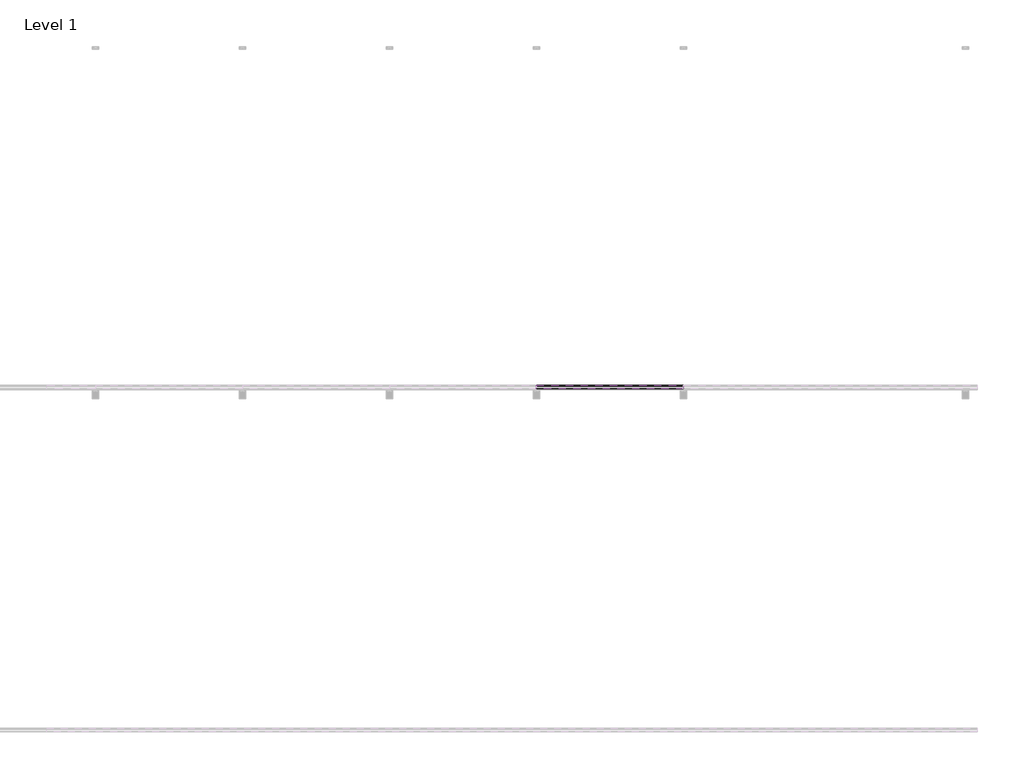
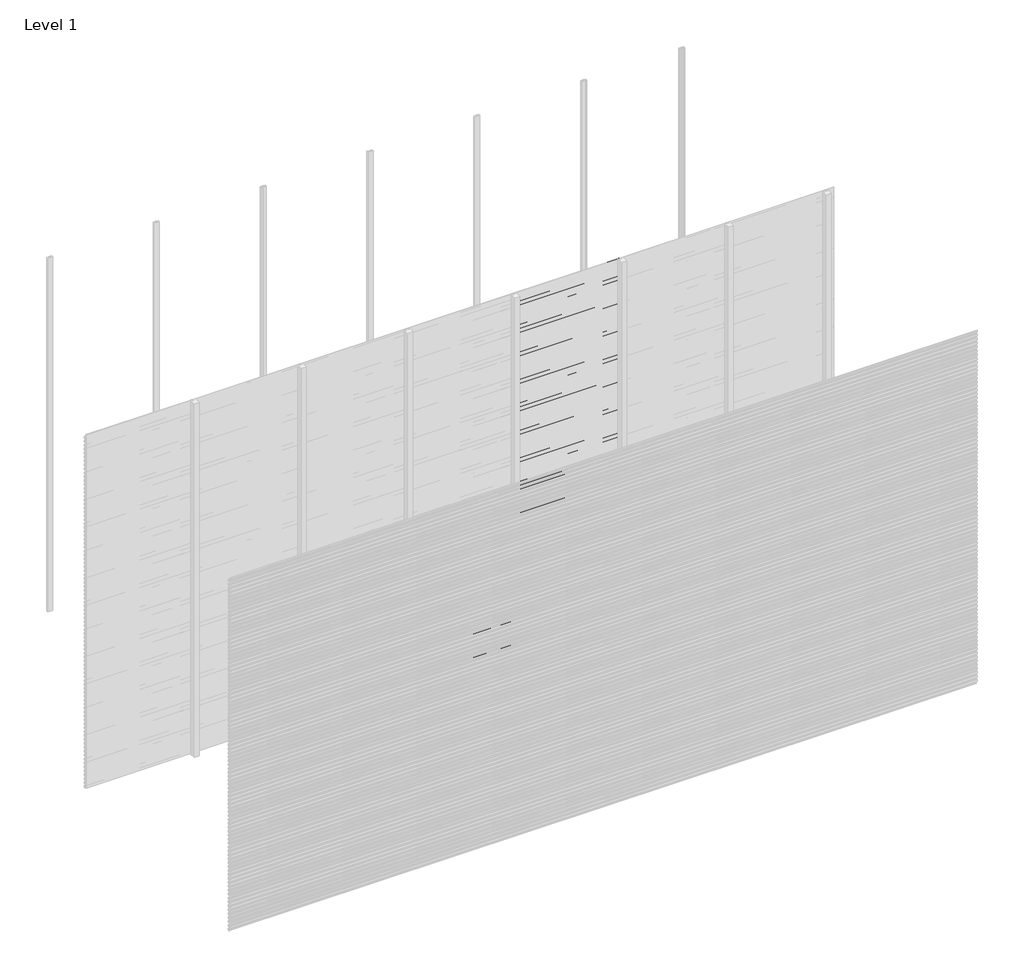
# One storey, part 47 of 96: 76 proxies.
"""IFC4 building model written with IfcOpenShell, lengths in millimetres."""

from ifc_helpers import new_model, si_unit, frame, origin, place, context, project, spatial, polyline, outline, extrude, element, save

model = new_model("IFC4")

# Units and contexts
model_context = context("Model", 3, world=origin())
ifc_project = project(units=[si_unit("LENGTHUNIT", "METRE", prefix="MILLI")], contexts=[model_context])

# Site, building, storey
site = spatial("IfcSite", under=ifc_project)
building = spatial("IfcBuilding", under=site)
storey = spatial("IfcBuildingStorey", under=building, Name="Level 1", Elevation=0.0)

# Proxies
placement = place(None, origin())
element("IfcBuildingElementProxy", 1, Name="Wall Sweeps", at=placement, inside=storey, context=model_context, shape_type="SweptSolid", body=[
    extrude(outline(polyline([(-29977.6, 407.6655033), (-29977.6, 393.3779188), (-29982.4114965, 390.6), (-29982.4114965, 391.8701706), (-29978.85, 393.9264016), (-29978.85, 406.9437382), (-29998.0, 418.0000799), (-29998.0, 432.9), (-29996.75, 432.9), (-29996.75, 418.7217609), (-29977.6, 407.6655033)])), frame((2571.4285714, 0.0, 0.0), z_axis=(1.0, 0.0, 0.0), x_axis=(0.0, 1.0, 0.0)), (0.0, 0.0, 1.0), 857.1428571),
])
element("IfcBuildingElementProxy", 2, Name="Wall Sweeps", at=placement, inside=storey, context=model_context, shape_type="SweptSolid", body=[
    extrude(outline(polyline([(-29977.6, 374.3655033), (-29977.6, 360.0779188), (-29982.4114965, 357.3), (-29982.4114965, 358.5701706), (-29978.85, 360.6264016), (-29978.85, 373.6437382), (-29998.0, 384.7000799), (-29998.0, 399.6), (-29996.75, 399.6), (-29996.75, 385.4217609), (-29977.6, 374.3655033)])), frame((2571.4285714, 0.0, 0.0), z_axis=(1.0, 0.0, 0.0), x_axis=(0.0, 1.0, 0.0)), (0.0, 0.0, 1.0), 857.1428571),
])
element("IfcBuildingElementProxy", 3, Name="Wall Sweeps", at=placement, inside=storey, context=model_context, shape_type="SweptSolid", body=[
    extrude(outline(polyline([(-29977.6, 341.0655033), (-29977.6, 326.7779188), (-29982.4114965, 324.0), (-29982.4114965, 325.2701706), (-29978.85, 327.3264016), (-29978.85, 340.3437382), (-29998.0, 351.4000799), (-29998.0, 366.3), (-29996.75, 366.3), (-29996.75, 352.1217609), (-29977.6, 341.0655033)])), frame((2571.4285714, 0.0, 0.0), z_axis=(1.0, 0.0, 0.0), x_axis=(0.0, 1.0, 0.0)), (0.0, 0.0, 1.0), 857.1428571),
])
element("IfcBuildingElementProxy", 4, Name="Wall Sweeps", at=placement, inside=storey, context=model_context, shape_type="SweptSolid", body=[
    extrude(outline(polyline([(-29977.6, 307.7655033), (-29977.6, 293.4779188), (-29982.4114965, 290.7), (-29982.4114965, 291.9701706), (-29978.85, 294.0264016), (-29978.85, 307.0437382), (-29998.0, 318.1000799), (-29998.0, 333.0), (-29996.75, 333.0), (-29996.75, 318.8217609), (-29977.6, 307.7655033)])), frame((2571.4285714, 0.0, 0.0), z_axis=(1.0, 0.0, 0.0), x_axis=(0.0, 1.0, 0.0)), (0.0, 0.0, 1.0), 857.1428571),
])
element("IfcBuildingElementProxy", 5, Name="Wall Sweeps", at=placement, inside=storey, context=model_context, shape_type="SweptSolid", body=[
    extrude(outline(polyline([(-29977.6, 274.4655033), (-29977.6, 260.1779188), (-29982.4114965, 257.4), (-29982.4114965, 258.6701706), (-29978.85, 260.7264016), (-29978.85, 273.7437382), (-29998.0, 284.8000799), (-29998.0, 299.7), (-29996.75, 299.7), (-29996.75, 285.5217609), (-29977.6, 274.4655033)])), frame((2571.4285714, 0.0, 0.0), z_axis=(1.0, 0.0, 0.0), x_axis=(0.0, 1.0, 0.0)), (0.0, 0.0, 1.0), 857.1428571),
])
element("IfcBuildingElementProxy", 6, Name="Wall Sweeps", at=placement, inside=storey, context=model_context, shape_type="SweptSolid", body=[
    extrude(outline(polyline([(-29977.6, 241.1655033), (-29977.6, 226.8779188), (-29982.4114965, 224.1), (-29982.4114965, 225.3701706), (-29978.85, 227.4264016), (-29978.85, 240.4437382), (-29998.0, 251.5000799), (-29998.0, 266.4), (-29996.75, 266.4), (-29996.75, 252.2217609), (-29977.6, 241.1655033)])), frame((2571.4285714, 0.0, 0.0), z_axis=(1.0, 0.0, 0.0), x_axis=(0.0, 1.0, 0.0)), (0.0, 0.0, 1.0), 857.1428571),
])
element("IfcBuildingElementProxy", 7, Name="Wall Sweeps", at=placement, inside=storey, context=model_context, shape_type="SweptSolid", body=[
    extrude(outline(polyline([(-29977.6, 207.8655033), (-29977.6, 193.5779188), (-29982.4114965, 190.8), (-29982.4114965, 192.0701706), (-29978.85, 194.1264016), (-29978.85, 207.1437382), (-29998.0, 218.2000799), (-29998.0, 233.1), (-29996.75, 233.1), (-29996.75, 218.9217609), (-29977.6, 207.8655033)])), frame((2571.4285714, 0.0, 0.0), z_axis=(1.0, 0.0, 0.0), x_axis=(0.0, 1.0, 0.0)), (0.0, 0.0, 1.0), 857.1428571),
])
element("IfcBuildingElementProxy", 8, Name="Wall Sweeps", at=placement, inside=storey, context=model_context, shape_type="SweptSolid", body=[
    extrude(outline(polyline([(-29977.6, 174.5655033), (-29977.6, 160.2779188), (-29982.4114965, 157.5), (-29982.4114965, 158.7701706), (-29978.85, 160.8264016), (-29978.85, 173.8437382), (-29998.0, 184.9000799), (-29998.0, 199.8), (-29996.75, 199.8), (-29996.75, 185.6217609), (-29977.6, 174.5655033)])), frame((2571.4285714, 0.0, 0.0), z_axis=(1.0, 0.0, 0.0), x_axis=(0.0, 1.0, 0.0)), (0.0, 0.0, 1.0), 857.1428571),
])
element("IfcBuildingElementProxy", 9, Name="Wall Sweeps", at=placement, inside=storey, context=model_context, shape_type="SweptSolid", body=[
    extrude(outline(polyline([(-29977.6, 141.2655033), (-29977.6, 126.9779188), (-29982.4114965, 124.2), (-29982.4114965, 125.4701706), (-29978.85, 127.5264016), (-29978.85, 140.5437382), (-29998.0, 151.6000799), (-29998.0, 166.5), (-29996.75, 166.5), (-29996.75, 152.3217609), (-29977.6, 141.2655033)])), frame((2571.4285714, 0.0, 0.0), z_axis=(1.0, 0.0, 0.0), x_axis=(0.0, 1.0, 0.0)), (0.0, 0.0, 1.0), 857.1428571),
])
element("IfcBuildingElementProxy", 10, Name="Wall Sweeps", at=placement, inside=storey, context=model_context, shape_type="SweptSolid", body=[
    extrude(outline(polyline([(-29977.6, 107.9655033), (-29977.6, 93.6779188), (-29982.4114965, 90.9), (-29982.4114965, 92.1701706), (-29978.85, 94.2264016), (-29978.85, 107.2437382), (-29998.0, 118.3000799), (-29998.0, 133.2), (-29996.75, 133.2), (-29996.75, 119.0217609), (-29977.6, 107.9655033)])), frame((2571.4285714, 0.0, 0.0), z_axis=(1.0, 0.0, 0.0), x_axis=(0.0, 1.0, 0.0)), (0.0, 0.0, 1.0), 857.1428571),
])
element("IfcBuildingElementProxy", 11, Name="Wall Sweeps", at=placement, inside=storey, context=model_context, shape_type="SweptSolid", body=[
    extrude(outline(polyline([(-29977.6, 74.6655033), (-29977.6, 60.3779188), (-29982.4114965, 57.6), (-29982.4114965, 58.8701706), (-29978.85, 60.9264016), (-29978.85, 73.9437382), (-29998.0, 85.0000799), (-29998.0, 99.9), (-29996.75, 99.9), (-29996.75, 85.7217609), (-29977.6, 74.6655033)])), frame((2571.4285714, 0.0, 0.0), z_axis=(1.0, 0.0, 0.0), x_axis=(0.0, 1.0, 0.0)), (0.0, 0.0, 1.0), 857.1428571),
])
element("IfcBuildingElementProxy", 12, Name="Wall Sweeps", at=placement, inside=storey, context=model_context, shape_type="SweptSolid", body=[
    extrude(outline(polyline([(-29977.6, 41.3655033), (-29977.6, 27.0779188), (-29982.4114965, 24.3), (-29982.4114965, 25.5701706), (-29978.85, 27.6264016), (-29978.85, 40.6437382), (-29998.0, 51.7000799), (-29998.0, 66.6), (-29996.75, 66.6), (-29996.75, 52.4217609), (-29977.6, 41.3655033)])), frame((2571.4285714, 0.0, 0.0), z_axis=(1.0, 0.0, 0.0), x_axis=(0.0, 1.0, 0.0)), (0.0, 0.0, 1.0), 857.1428571),
])
element("IfcBuildingElementProxy", 13, Name="Wall Sweeps", at=placement, inside=storey, context=model_context, shape_type="SweptSolid", body=[
    extrude(outline(polyline([(-29977.6, 8.0655033), (-29977.6, -6.2220812), (-29982.4114965, -9.0), (-29982.4114965, -7.7298294), (-29978.85, -5.6735984), (-29978.85, 7.3437382), (-29998.0, 18.4000799), (-29998.0, 33.3), (-29996.75, 33.3), (-29996.75, 19.1217609), (-29977.6, 8.0655033)])), frame((2571.4285714, 0.0, 0.0), z_axis=(1.0, 0.0, 0.0), x_axis=(0.0, 1.0, 0.0)), (0.0, 0.0, 1.0), 857.1428571),
])
element("IfcBuildingElementProxy", 14, Name="Wall Sweeps", at=placement, inside=storey, context=model_context, shape_type="SweptSolid", body=[
    extrude(outline(polyline([(-29977.6, 2971.7655033), (-29977.6, 2957.4779188), (-29982.4114965, 2954.7), (-29982.4114965, 2955.9701706), (-29978.85, 2958.0264016), (-29978.85, 2971.0437382), (-29998.0, 2982.1000799), (-29998.0, 2997.0), (-29996.75, 2997.0), (-29996.75, 2982.8217609), (-29977.6, 2971.7655033)])), frame((3428.5714286, 0.0, 0.0), z_axis=(1.0, 0.0, 0.0), x_axis=(0.0, 1.0, 0.0)), (0.0, 0.0, 1.0), 857.1428571),
])
element("IfcBuildingElementProxy", 15, Name="Wall Sweeps", at=placement, inside=storey, context=model_context, shape_type="SweptSolid", body=[
    extrude(outline(polyline([(-29977.6, 2938.4655033), (-29977.6, 2924.1779188), (-29982.4114965, 2921.4), (-29982.4114965, 2922.6701706), (-29978.85, 2924.7264016), (-29978.85, 2937.7437382), (-29998.0, 2948.8000799), (-29998.0, 2963.7), (-29996.75, 2963.7), (-29996.75, 2949.5217609), (-29977.6, 2938.4655033)])), frame((3428.5714286, 0.0, 0.0), z_axis=(1.0, 0.0, 0.0), x_axis=(0.0, 1.0, 0.0)), (0.0, 0.0, 1.0), 857.1428571),
])
element("IfcBuildingElementProxy", 16, Name="Wall Sweeps", at=placement, inside=storey, context=model_context, shape_type="SweptSolid", body=[
    extrude(outline(polyline([(-29977.6, 2905.1655033), (-29977.6, 2890.8779188), (-29982.4114965, 2888.1), (-29982.4114965, 2889.3701706), (-29978.85, 2891.4264016), (-29978.85, 2904.4437382), (-29998.0, 2915.5000799), (-29998.0, 2930.4), (-29996.75, 2930.4), (-29996.75, 2916.2217609), (-29977.6, 2905.1655033)])), frame((3428.5714286, 0.0, 0.0), z_axis=(1.0, 0.0, 0.0), x_axis=(0.0, 1.0, 0.0)), (0.0, 0.0, 1.0), 857.1428571),
])
element("IfcBuildingElementProxy", 17, Name="Wall Sweeps", at=placement, inside=storey, context=model_context, shape_type="SweptSolid", body=[
    extrude(outline(polyline([(-29977.6, 2871.8655033), (-29977.6, 2857.5779188), (-29982.4114965, 2854.8), (-29982.4114965, 2856.0701706), (-29978.85, 2858.1264016), (-29978.85, 2871.1437382), (-29998.0, 2882.2000799), (-29998.0, 2897.1), (-29996.75, 2897.1), (-29996.75, 2882.9217609), (-29977.6, 2871.8655033)])), frame((3428.5714286, 0.0, 0.0), z_axis=(1.0, 0.0, 0.0), x_axis=(0.0, 1.0, 0.0)), (0.0, 0.0, 1.0), 857.1428571),
])
element("IfcBuildingElementProxy", 18, Name="Wall Sweeps", at=placement, inside=storey, context=model_context, shape_type="SweptSolid", body=[
    extrude(outline(polyline([(-29977.6, 2838.5655033), (-29977.6, 2824.2779188), (-29982.4114965, 2821.5), (-29982.4114965, 2822.7701706), (-29978.85, 2824.8264016), (-29978.85, 2837.8437382), (-29998.0, 2848.9000799), (-29998.0, 2863.8), (-29996.75, 2863.8), (-29996.75, 2849.6217609), (-29977.6, 2838.5655033)])), frame((3428.5714286, 0.0, 0.0), z_axis=(1.0, 0.0, 0.0), x_axis=(0.0, 1.0, 0.0)), (0.0, 0.0, 1.0), 857.1428571),
])
element("IfcBuildingElementProxy", 19, Name="Wall Sweeps", at=placement, inside=storey, context=model_context, shape_type="SweptSolid", body=[
    extrude(outline(polyline([(-29977.6, 2805.2655033), (-29977.6, 2790.9779188), (-29982.4114965, 2788.2), (-29982.4114965, 2789.4701706), (-29978.85, 2791.5264016), (-29978.85, 2804.5437382), (-29998.0, 2815.6000799), (-29998.0, 2830.5), (-29996.75, 2830.5), (-29996.75, 2816.3217609), (-29977.6, 2805.2655033)])), frame((3428.5714286, 0.0, 0.0), z_axis=(1.0, 0.0, 0.0), x_axis=(0.0, 1.0, 0.0)), (0.0, 0.0, 1.0), 857.1428571),
])
element("IfcBuildingElementProxy", 20, Name="Wall Sweeps", at=placement, inside=storey, context=model_context, shape_type="SweptSolid", body=[
    extrude(outline(polyline([(-29977.6, 2771.9655033), (-29977.6, 2757.6779188), (-29982.4114965, 2754.9), (-29982.4114965, 2756.1701706), (-29978.85, 2758.2264016), (-29978.85, 2771.2437382), (-29998.0, 2782.3000799), (-29998.0, 2797.2), (-29996.75, 2797.2), (-29996.75, 2783.0217609), (-29977.6, 2771.9655033)])), frame((3428.5714286, 0.0, 0.0), z_axis=(1.0, 0.0, 0.0), x_axis=(0.0, 1.0, 0.0)), (0.0, 0.0, 1.0), 857.1428571),
])
element("IfcBuildingElementProxy", 21, Name="Wall Sweeps", at=placement, inside=storey, context=model_context, shape_type="SweptSolid", body=[
    extrude(outline(polyline([(-29977.6, 2738.6655033), (-29977.6, 2724.3779188), (-29982.4114965, 2721.6), (-29982.4114965, 2722.8701706), (-29978.85, 2724.9264016), (-29978.85, 2737.9437382), (-29998.0, 2749.0000799), (-29998.0, 2763.9), (-29996.75, 2763.9), (-29996.75, 2749.7217609), (-29977.6, 2738.6655033)])), frame((3428.5714286, 0.0, 0.0), z_axis=(1.0, 0.0, 0.0), x_axis=(0.0, 1.0, 0.0)), (0.0, 0.0, 1.0), 857.1428571),
])
element("IfcBuildingElementProxy", 22, Name="Wall Sweeps", at=placement, inside=storey, context=model_context, shape_type="SweptSolid", body=[
    extrude(outline(polyline([(-29977.6, 2705.3655033), (-29977.6, 2691.0779188), (-29982.4114965, 2688.3), (-29982.4114965, 2689.5701706), (-29978.85, 2691.6264016), (-29978.85, 2704.6437382), (-29998.0, 2715.7000799), (-29998.0, 2730.6), (-29996.75, 2730.6), (-29996.75, 2716.4217609), (-29977.6, 2705.3655033)])), frame((3428.5714286, 0.0, 0.0), z_axis=(1.0, 0.0, 0.0), x_axis=(0.0, 1.0, 0.0)), (0.0, 0.0, 1.0), 857.1428571),
])
element("IfcBuildingElementProxy", 23, Name="Wall Sweeps", at=placement, inside=storey, context=model_context, shape_type="SweptSolid", body=[
    extrude(outline(polyline([(-29977.6, 2672.0655033), (-29977.6, 2657.7779188), (-29982.4114965, 2655.0), (-29982.4114965, 2656.2701706), (-29978.85, 2658.3264016), (-29978.85, 2671.3437382), (-29998.0, 2682.4000799), (-29998.0, 2697.3), (-29996.75, 2697.3), (-29996.75, 2683.1217609), (-29977.6, 2672.0655033)])), frame((3428.5714286, 0.0, 0.0), z_axis=(1.0, 0.0, 0.0), x_axis=(0.0, 1.0, 0.0)), (0.0, 0.0, 1.0), 857.1428571),
])
element("IfcBuildingElementProxy", 24, Name="Wall Sweeps", at=placement, inside=storey, context=model_context, shape_type="SweptSolid", body=[
    extrude(outline(polyline([(-29977.6, 2638.7655033), (-29977.6, 2624.4779188), (-29982.4114965, 2621.7), (-29982.4114965, 2622.9701706), (-29978.85, 2625.0264016), (-29978.85, 2638.0437382), (-29998.0, 2649.1000799), (-29998.0, 2664.0), (-29996.75, 2664.0), (-29996.75, 2649.8217609), (-29977.6, 2638.7655033)])), frame((3428.5714286, 0.0, 0.0), z_axis=(1.0, 0.0, 0.0), x_axis=(0.0, 1.0, 0.0)), (0.0, 0.0, 1.0), 857.1428571),
])
element("IfcBuildingElementProxy", 25, Name="Wall Sweeps", at=placement, inside=storey, context=model_context, shape_type="SweptSolid", body=[
    extrude(outline(polyline([(-29977.6, 2605.4655033), (-29977.6, 2591.1779188), (-29982.4114965, 2588.4), (-29982.4114965, 2589.6701706), (-29978.85, 2591.7264016), (-29978.85, 2604.7437382), (-29998.0, 2615.8000799), (-29998.0, 2630.7), (-29996.75, 2630.7), (-29996.75, 2616.5217609), (-29977.6, 2605.4655033)])), frame((3428.5714286, 0.0, 0.0), z_axis=(1.0, 0.0, 0.0), x_axis=(0.0, 1.0, 0.0)), (0.0, 0.0, 1.0), 857.1428571),
])
element("IfcBuildingElementProxy", 26, Name="Wall Sweeps", at=placement, inside=storey, context=model_context, shape_type="SweptSolid", body=[
    extrude(outline(polyline([(-29977.6, 2572.1655033), (-29977.6, 2557.8779188), (-29982.4114965, 2555.1), (-29982.4114965, 2556.3701706), (-29978.85, 2558.4264016), (-29978.85, 2571.4437382), (-29998.0, 2582.5000799), (-29998.0, 2597.4), (-29996.75, 2597.4), (-29996.75, 2583.2217609), (-29977.6, 2572.1655033)])), frame((3428.5714286, 0.0, 0.0), z_axis=(1.0, 0.0, 0.0), x_axis=(0.0, 1.0, 0.0)), (0.0, 0.0, 1.0), 857.1428571),
])
element("IfcBuildingElementProxy", 27, Name="Wall Sweeps", at=placement, inside=storey, context=model_context, shape_type="SweptSolid", body=[
    extrude(outline(polyline([(-29977.6, 2538.8655033), (-29977.6, 2524.5779188), (-29982.4114965, 2521.8), (-29982.4114965, 2523.0701706), (-29978.85, 2525.1264016), (-29978.85, 2538.1437382), (-29998.0, 2549.2000799), (-29998.0, 2564.1), (-29996.75, 2564.1), (-29996.75, 2549.9217609), (-29977.6, 2538.8655033)])), frame((3428.5714286, 0.0, 0.0), z_axis=(1.0, 0.0, 0.0), x_axis=(0.0, 1.0, 0.0)), (0.0, 0.0, 1.0), 857.1428571),
])
element("IfcBuildingElementProxy", 28, Name="Wall Sweeps", at=placement, inside=storey, context=model_context, shape_type="SweptSolid", body=[
    extrude(outline(polyline([(-29977.6, 2505.5655033), (-29977.6, 2491.2779188), (-29982.4114965, 2488.5), (-29982.4114965, 2489.7701706), (-29978.85, 2491.8264016), (-29978.85, 2504.8437382), (-29998.0, 2515.9000799), (-29998.0, 2530.8), (-29996.75, 2530.8), (-29996.75, 2516.6217609), (-29977.6, 2505.5655033)])), frame((3428.5714286, 0.0, 0.0), z_axis=(1.0, 0.0, 0.0), x_axis=(0.0, 1.0, 0.0)), (0.0, 0.0, 1.0), 857.1428571),
])
element("IfcBuildingElementProxy", 29, Name="Wall Sweeps", at=placement, inside=storey, context=model_context, shape_type="SweptSolid", body=[
    extrude(outline(polyline([(-29977.6, 2472.2655033), (-29977.6, 2457.9779188), (-29982.4114965, 2455.2), (-29982.4114965, 2456.4701706), (-29978.85, 2458.5264016), (-29978.85, 2471.5437382), (-29998.0, 2482.6000799), (-29998.0, 2497.5), (-29996.75, 2497.5), (-29996.75, 2483.3217609), (-29977.6, 2472.2655033)])), frame((3428.5714286, 0.0, 0.0), z_axis=(1.0, 0.0, 0.0), x_axis=(0.0, 1.0, 0.0)), (0.0, 0.0, 1.0), 857.1428571),
])
element("IfcBuildingElementProxy", 30, Name="Wall Sweeps", at=placement, inside=storey, context=model_context, shape_type="SweptSolid", body=[
    extrude(outline(polyline([(-29977.6, 2438.9655033), (-29977.6, 2424.6779188), (-29982.4114965, 2421.9), (-29982.4114965, 2423.1701706), (-29978.85, 2425.2264016), (-29978.85, 2438.2437382), (-29998.0, 2449.3000799), (-29998.0, 2464.2), (-29996.75, 2464.2), (-29996.75, 2450.0217609), (-29977.6, 2438.9655033)])), frame((3428.5714286, 0.0, 0.0), z_axis=(1.0, 0.0, 0.0), x_axis=(0.0, 1.0, 0.0)), (0.0, 0.0, 1.0), 857.1428571),
])
element("IfcBuildingElementProxy", 31, Name="Wall Sweeps", at=placement, inside=storey, context=model_context, shape_type="SweptSolid", body=[
    extrude(outline(polyline([(-29977.6, 2405.6655033), (-29977.6, 2391.3779188), (-29982.4114965, 2388.6), (-29982.4114965, 2389.8701706), (-29978.85, 2391.9264016), (-29978.85, 2404.9437382), (-29998.0, 2416.0000799), (-29998.0, 2430.9), (-29996.75, 2430.9), (-29996.75, 2416.7217609), (-29977.6, 2405.6655033)])), frame((3428.5714286, 0.0, 0.0), z_axis=(1.0, 0.0, 0.0), x_axis=(0.0, 1.0, 0.0)), (0.0, 0.0, 1.0), 857.1428571),
])
element("IfcBuildingElementProxy", 32, Name="Wall Sweeps", at=placement, inside=storey, context=model_context, shape_type="SweptSolid", body=[
    extrude(outline(polyline([(-29977.6, 2372.3655033), (-29977.6, 2358.0779188), (-29982.4114965, 2355.3), (-29982.4114965, 2356.5701706), (-29978.85, 2358.6264016), (-29978.85, 2371.6437382), (-29998.0, 2382.7000799), (-29998.0, 2397.6), (-29996.75, 2397.6), (-29996.75, 2383.4217609), (-29977.6, 2372.3655033)])), frame((3428.5714286, 0.0, 0.0), z_axis=(1.0, 0.0, 0.0), x_axis=(0.0, 1.0, 0.0)), (0.0, 0.0, 1.0), 857.1428571),
])
element("IfcBuildingElementProxy", 33, Name="Wall Sweeps", at=placement, inside=storey, context=model_context, shape_type="SweptSolid", body=[
    extrude(outline(polyline([(-29977.6, 2339.0655033), (-29977.6, 2324.7779188), (-29982.4114965, 2322.0), (-29982.4114965, 2323.2701706), (-29978.85, 2325.3264016), (-29978.85, 2338.3437382), (-29998.0, 2349.4000799), (-29998.0, 2364.3), (-29996.75, 2364.3), (-29996.75, 2350.1217609), (-29977.6, 2339.0655033)])), frame((3428.5714286, 0.0, 0.0), z_axis=(1.0, 0.0, 0.0), x_axis=(0.0, 1.0, 0.0)), (0.0, 0.0, 1.0), 857.1428571),
])
element("IfcBuildingElementProxy", 34, Name="Wall Sweeps", at=placement, inside=storey, context=model_context, shape_type="SweptSolid", body=[
    extrude(outline(polyline([(-29977.6, 2305.7655033), (-29977.6, 2291.4779188), (-29982.4114965, 2288.7), (-29982.4114965, 2289.9701706), (-29978.85, 2292.0264016), (-29978.85, 2305.0437382), (-29998.0, 2316.1000799), (-29998.0, 2331.0), (-29996.75, 2331.0), (-29996.75, 2316.8217609), (-29977.6, 2305.7655033)])), frame((3428.5714286, 0.0, 0.0), z_axis=(1.0, 0.0, 0.0), x_axis=(0.0, 1.0, 0.0)), (0.0, 0.0, 1.0), 857.1428571),
])
element("IfcBuildingElementProxy", 35, Name="Wall Sweeps", at=placement, inside=storey, context=model_context, shape_type="SweptSolid", body=[
    extrude(outline(polyline([(-29977.6, 2272.4655033), (-29977.6, 2258.1779188), (-29982.4114965, 2255.4), (-29982.4114965, 2256.6701706), (-29978.85, 2258.7264016), (-29978.85, 2271.7437382), (-29998.0, 2282.8000799), (-29998.0, 2297.7), (-29996.75, 2297.7), (-29996.75, 2283.5217609), (-29977.6, 2272.4655033)])), frame((3428.5714286, 0.0, 0.0), z_axis=(1.0, 0.0, 0.0), x_axis=(0.0, 1.0, 0.0)), (0.0, 0.0, 1.0), 857.1428571),
])
element("IfcBuildingElementProxy", 36, Name="Wall Sweeps", at=placement, inside=storey, context=model_context, shape_type="SweptSolid", body=[
    extrude(outline(polyline([(-29977.6, 2239.1655033), (-29977.6, 2224.8779188), (-29982.4114965, 2222.1), (-29982.4114965, 2223.3701706), (-29978.85, 2225.4264016), (-29978.85, 2238.4437382), (-29998.0, 2249.5000799), (-29998.0, 2264.4), (-29996.75, 2264.4), (-29996.75, 2250.2217609), (-29977.6, 2239.1655033)])), frame((3428.5714286, 0.0, 0.0), z_axis=(1.0, 0.0, 0.0), x_axis=(0.0, 1.0, 0.0)), (0.0, 0.0, 1.0), 857.1428571),
])
element("IfcBuildingElementProxy", 37, Name="Wall Sweeps", at=placement, inside=storey, context=model_context, shape_type="SweptSolid", body=[
    extrude(outline(polyline([(-29977.6, 2205.8655033), (-29977.6, 2191.5779188), (-29982.4114965, 2188.8), (-29982.4114965, 2190.0701706), (-29978.85, 2192.1264016), (-29978.85, 2205.1437382), (-29998.0, 2216.2000799), (-29998.0, 2231.1), (-29996.75, 2231.1), (-29996.75, 2216.9217609), (-29977.6, 2205.8655033)])), frame((3428.5714286, 0.0, 0.0), z_axis=(1.0, 0.0, 0.0), x_axis=(0.0, 1.0, 0.0)), (0.0, 0.0, 1.0), 857.1428571),
])
element("IfcBuildingElementProxy", 38, Name="Wall Sweeps", at=placement, inside=storey, context=model_context, shape_type="SweptSolid", body=[
    extrude(outline(polyline([(-29977.6, 2172.5655033), (-29977.6, 2158.2779188), (-29982.4114965, 2155.5), (-29982.4114965, 2156.7701706), (-29978.85, 2158.8264016), (-29978.85, 2171.8437382), (-29998.0, 2182.9000799), (-29998.0, 2197.8), (-29996.75, 2197.8), (-29996.75, 2183.6217609), (-29977.6, 2172.5655033)])), frame((3428.5714286, 0.0, 0.0), z_axis=(1.0, 0.0, 0.0), x_axis=(0.0, 1.0, 0.0)), (0.0, 0.0, 1.0), 857.1428571),
])
element("IfcBuildingElementProxy", 39, Name="Wall Sweeps", at=placement, inside=storey, context=model_context, shape_type="SweptSolid", body=[
    extrude(outline(polyline([(-29977.6, 2139.2655033), (-29977.6, 2124.9779188), (-29982.4114965, 2122.2), (-29982.4114965, 2123.4701706), (-29978.85, 2125.5264016), (-29978.85, 2138.5437382), (-29998.0, 2149.6000799), (-29998.0, 2164.5), (-29996.75, 2164.5), (-29996.75, 2150.3217609), (-29977.6, 2139.2655033)])), frame((3428.5714286, 0.0, 0.0), z_axis=(1.0, 0.0, 0.0), x_axis=(0.0, 1.0, 0.0)), (0.0, 0.0, 1.0), 857.1428571),
])
element("IfcBuildingElementProxy", 40, Name="Wall Sweeps", at=placement, inside=storey, context=model_context, shape_type="SweptSolid", body=[
    extrude(outline(polyline([(-29977.6, 2105.9655033), (-29977.6, 2091.6779188), (-29982.4114965, 2088.9), (-29982.4114965, 2090.1701706), (-29978.85, 2092.2264016), (-29978.85, 2105.2437382), (-29998.0, 2116.3000799), (-29998.0, 2131.2), (-29996.75, 2131.2), (-29996.75, 2117.0217609), (-29977.6, 2105.9655033)])), frame((3428.5714286, 0.0, 0.0), z_axis=(1.0, 0.0, 0.0), x_axis=(0.0, 1.0, 0.0)), (0.0, 0.0, 1.0), 857.1428571),
])
element("IfcBuildingElementProxy", 41, Name="Wall Sweeps", at=placement, inside=storey, context=model_context, shape_type="SweptSolid", body=[
    extrude(outline(polyline([(-29977.6, 2072.6655033), (-29977.6, 2058.3779188), (-29982.4114965, 2055.6), (-29982.4114965, 2056.8701706), (-29978.85, 2058.9264016), (-29978.85, 2071.9437382), (-29998.0, 2083.0000799), (-29998.0, 2097.9), (-29996.75, 2097.9), (-29996.75, 2083.7217609), (-29977.6, 2072.6655033)])), frame((3428.5714286, 0.0, 0.0), z_axis=(1.0, 0.0, 0.0), x_axis=(0.0, 1.0, 0.0)), (0.0, 0.0, 1.0), 857.1428571),
])
element("IfcBuildingElementProxy", 42, Name="Wall Sweeps", at=placement, inside=storey, context=model_context, shape_type="SweptSolid", body=[
    extrude(outline(polyline([(-29977.6, 2039.3655033), (-29977.6, 2025.0779188), (-29982.4114965, 2022.3), (-29982.4114965, 2023.5701706), (-29978.85, 2025.6264016), (-29978.85, 2038.6437382), (-29998.0, 2049.7000799), (-29998.0, 2064.6), (-29996.75, 2064.6), (-29996.75, 2050.4217609), (-29977.6, 2039.3655033)])), frame((3428.5714286, 0.0, 0.0), z_axis=(1.0, 0.0, 0.0), x_axis=(0.0, 1.0, 0.0)), (0.0, 0.0, 1.0), 857.1428571),
])
element("IfcBuildingElementProxy", 43, Name="Wall Sweeps", at=placement, inside=storey, context=model_context, shape_type="SweptSolid", body=[
    extrude(outline(polyline([(-29977.6, 2006.0655033), (-29977.6, 1991.7779188), (-29982.4114965, 1989.0), (-29982.4114965, 1990.2701706), (-29978.85, 1992.3264016), (-29978.85, 2005.3437382), (-29998.0, 2016.4000799), (-29998.0, 2031.3), (-29996.75, 2031.3), (-29996.75, 2017.1217609), (-29977.6, 2006.0655033)])), frame((3428.5714286, 0.0, 0.0), z_axis=(1.0, 0.0, 0.0), x_axis=(0.0, 1.0, 0.0)), (0.0, 0.0, 1.0), 857.1428571),
])
element("IfcBuildingElementProxy", 44, Name="Wall Sweeps", at=placement, inside=storey, context=model_context, shape_type="SweptSolid", body=[
    extrude(outline(polyline([(-29977.6, 1972.7655033), (-29977.6, 1958.4779188), (-29982.4114965, 1955.7), (-29982.4114965, 1956.9701706), (-29978.85, 1959.0264016), (-29978.85, 1972.0437382), (-29998.0, 1983.1000799), (-29998.0, 1998.0), (-29996.75, 1998.0), (-29996.75, 1983.8217609), (-29977.6, 1972.7655033)])), frame((3428.5714286, 0.0, 0.0), z_axis=(1.0, 0.0, 0.0), x_axis=(0.0, 1.0, 0.0)), (0.0, 0.0, 1.0), 857.1428571),
])
element("IfcBuildingElementProxy", 45, Name="Wall Sweeps", at=placement, inside=storey, context=model_context, shape_type="SweptSolid", body=[
    extrude(outline(polyline([(-29977.6, 1939.4655033), (-29977.6, 1925.1779188), (-29982.4114965, 1922.4), (-29982.4114965, 1923.6701706), (-29978.85, 1925.7264016), (-29978.85, 1938.7437382), (-29998.0, 1949.8000799), (-29998.0, 1964.7), (-29996.75, 1964.7), (-29996.75, 1950.5217609), (-29977.6, 1939.4655033)])), frame((3428.5714286, 0.0, 0.0), z_axis=(1.0, 0.0, 0.0), x_axis=(0.0, 1.0, 0.0)), (0.0, 0.0, 1.0), 857.1428571),
])
element("IfcBuildingElementProxy", 46, Name="Wall Sweeps", at=placement, inside=storey, context=model_context, shape_type="SweptSolid", body=[
    extrude(outline(polyline([(-29977.6, 1906.1655033), (-29977.6, 1891.8779188), (-29982.4114965, 1889.1), (-29982.4114965, 1890.3701706), (-29978.85, 1892.4264016), (-29978.85, 1905.4437382), (-29998.0, 1916.5000799), (-29998.0, 1931.4), (-29996.75, 1931.4), (-29996.75, 1917.2217609), (-29977.6, 1906.1655033)])), frame((3428.5714286, 0.0, 0.0), z_axis=(1.0, 0.0, 0.0), x_axis=(0.0, 1.0, 0.0)), (0.0, 0.0, 1.0), 857.1428571),
])
element("IfcBuildingElementProxy", 47, Name="Wall Sweeps", at=placement, inside=storey, context=model_context, shape_type="SweptSolid", body=[
    extrude(outline(polyline([(-29977.6, 1872.8655033), (-29977.6, 1858.5779188), (-29982.4114965, 1855.8), (-29982.4114965, 1857.0701706), (-29978.85, 1859.1264016), (-29978.85, 1872.1437382), (-29998.0, 1883.2000799), (-29998.0, 1898.1), (-29996.75, 1898.1), (-29996.75, 1883.9217609), (-29977.6, 1872.8655033)])), frame((3428.5714286, 0.0, 0.0), z_axis=(1.0, 0.0, 0.0), x_axis=(0.0, 1.0, 0.0)), (0.0, 0.0, 1.0), 857.1428571),
])
element("IfcBuildingElementProxy", 48, Name="Wall Sweeps", at=placement, inside=storey, context=model_context, shape_type="SweptSolid", body=[
    extrude(outline(polyline([(-29977.6, 1839.5655033), (-29977.6, 1825.2779188), (-29982.4114965, 1822.5), (-29982.4114965, 1823.7701706), (-29978.85, 1825.8264016), (-29978.85, 1838.8437382), (-29998.0, 1849.9000799), (-29998.0, 1864.8), (-29996.75, 1864.8), (-29996.75, 1850.6217609), (-29977.6, 1839.5655033)])), frame((3428.5714286, 0.0, 0.0), z_axis=(1.0, 0.0, 0.0), x_axis=(0.0, 1.0, 0.0)), (0.0, 0.0, 1.0), 857.1428571),
])
element("IfcBuildingElementProxy", 49, Name="Wall Sweeps", at=placement, inside=storey, context=model_context, shape_type="SweptSolid", body=[
    extrude(outline(polyline([(-29977.6, 1806.2655033), (-29977.6, 1791.9779188), (-29982.4114965, 1789.2), (-29982.4114965, 1790.4701706), (-29978.85, 1792.5264016), (-29978.85, 1805.5437382), (-29998.0, 1816.6000799), (-29998.0, 1831.5), (-29996.75, 1831.5), (-29996.75, 1817.3217609), (-29977.6, 1806.2655033)])), frame((3428.5714286, 0.0, 0.0), z_axis=(1.0, 0.0, 0.0), x_axis=(0.0, 1.0, 0.0)), (0.0, 0.0, 1.0), 857.1428571),
])
element("IfcBuildingElementProxy", 50, Name="Wall Sweeps", at=placement, inside=storey, context=model_context, shape_type="SweptSolid", body=[
    extrude(outline(polyline([(-29977.6, 1772.9655033), (-29977.6, 1758.6779188), (-29982.4114965, 1755.9), (-29982.4114965, 1757.1701706), (-29978.85, 1759.2264016), (-29978.85, 1772.2437382), (-29998.0, 1783.3000799), (-29998.0, 1798.2), (-29996.75, 1798.2), (-29996.75, 1784.0217609), (-29977.6, 1772.9655033)])), frame((3428.5714286, 0.0, 0.0), z_axis=(1.0, 0.0, 0.0), x_axis=(0.0, 1.0, 0.0)), (0.0, 0.0, 1.0), 857.1428571),
])
element("IfcBuildingElementProxy", 51, Name="Wall Sweeps", at=placement, inside=storey, context=model_context, shape_type="SweptSolid", body=[
    extrude(outline(polyline([(-29977.6, 1739.6655033), (-29977.6, 1725.3779188), (-29982.4114965, 1722.6), (-29982.4114965, 1723.8701706), (-29978.85, 1725.9264016), (-29978.85, 1738.9437382), (-29998.0, 1750.0000799), (-29998.0, 1764.9), (-29996.75, 1764.9), (-29996.75, 1750.7217609), (-29977.6, 1739.6655033)])), frame((3428.5714286, 0.0, 0.0), z_axis=(1.0, 0.0, 0.0), x_axis=(0.0, 1.0, 0.0)), (0.0, 0.0, 1.0), 857.1428571),
])
element("IfcBuildingElementProxy", 52, Name="Wall Sweeps", at=placement, inside=storey, context=model_context, shape_type="SweptSolid", body=[
    extrude(outline(polyline([(-29977.6, 1706.3655033), (-29977.6, 1692.0779188), (-29982.4114965, 1689.3), (-29982.4114965, 1690.5701706), (-29978.85, 1692.6264016), (-29978.85, 1705.6437382), (-29998.0, 1716.7000799), (-29998.0, 1731.6), (-29996.75, 1731.6), (-29996.75, 1717.4217609), (-29977.6, 1706.3655033)])), frame((3428.5714286, 0.0, 0.0), z_axis=(1.0, 0.0, 0.0), x_axis=(0.0, 1.0, 0.0)), (0.0, 0.0, 1.0), 857.1428571),
])
element("IfcBuildingElementProxy", 53, Name="Wall Sweeps", at=placement, inside=storey, context=model_context, shape_type="SweptSolid", body=[
    extrude(outline(polyline([(-29977.6, 1673.0655033), (-29977.6, 1658.7779188), (-29982.4114965, 1656.0), (-29982.4114965, 1657.2701706), (-29978.85, 1659.3264016), (-29978.85, 1672.3437382), (-29998.0, 1683.4000799), (-29998.0, 1698.3), (-29996.75, 1698.3), (-29996.75, 1684.1217609), (-29977.6, 1673.0655033)])), frame((3428.5714286, 0.0, 0.0), z_axis=(1.0, 0.0, 0.0), x_axis=(0.0, 1.0, 0.0)), (0.0, 0.0, 1.0), 857.1428571),
])
element("IfcBuildingElementProxy", 54, Name="Wall Sweeps", at=placement, inside=storey, context=model_context, shape_type="SweptSolid", body=[
    extrude(outline(polyline([(-29977.6, 1639.7655033), (-29977.6, 1625.4779188), (-29982.4114965, 1622.7), (-29982.4114965, 1623.9701706), (-29978.85, 1626.0264016), (-29978.85, 1639.0437382), (-29998.0, 1650.1000799), (-29998.0, 1665.0), (-29996.75, 1665.0), (-29996.75, 1650.8217609), (-29977.6, 1639.7655033)])), frame((3428.5714286, 0.0, 0.0), z_axis=(1.0, 0.0, 0.0), x_axis=(0.0, 1.0, 0.0)), (0.0, 0.0, 1.0), 857.1428571),
])
element("IfcBuildingElementProxy", 55, Name="Wall Sweeps", at=placement, inside=storey, context=model_context, shape_type="SweptSolid", body=[
    extrude(outline(polyline([(-29977.6, 1606.4655033), (-29977.6, 1592.1779188), (-29982.4114965, 1589.4), (-29982.4114965, 1590.6701706), (-29978.85, 1592.7264016), (-29978.85, 1605.7437382), (-29998.0, 1616.8000799), (-29998.0, 1631.7), (-29996.75, 1631.7), (-29996.75, 1617.5217609), (-29977.6, 1606.4655033)])), frame((3428.5714286, 0.0, 0.0), z_axis=(1.0, 0.0, 0.0), x_axis=(0.0, 1.0, 0.0)), (0.0, 0.0, 1.0), 857.1428571),
])
element("IfcBuildingElementProxy", 56, Name="Wall Sweeps", at=placement, inside=storey, context=model_context, shape_type="SweptSolid", body=[
    extrude(outline(polyline([(-29977.6, 1573.1655033), (-29977.6, 1558.8779188), (-29982.4114965, 1556.1), (-29982.4114965, 1557.3701706), (-29978.85, 1559.4264016), (-29978.85, 1572.4437382), (-29998.0, 1583.5000799), (-29998.0, 1598.4), (-29996.75, 1598.4), (-29996.75, 1584.2217609), (-29977.6, 1573.1655033)])), frame((3428.5714286, 0.0, 0.0), z_axis=(1.0, 0.0, 0.0), x_axis=(0.0, 1.0, 0.0)), (0.0, 0.0, 1.0), 857.1428571),
])
element("IfcBuildingElementProxy", 57, Name="Wall Sweeps", at=placement, inside=storey, context=model_context, shape_type="SweptSolid", body=[
    extrude(outline(polyline([(-29977.6, 1539.8655033), (-29977.6, 1525.5779188), (-29982.4114965, 1522.8), (-29982.4114965, 1524.0701706), (-29978.85, 1526.1264016), (-29978.85, 1539.1437382), (-29998.0, 1550.2000799), (-29998.0, 1565.1), (-29996.75, 1565.1), (-29996.75, 1550.9217609), (-29977.6, 1539.8655033)])), frame((3428.5714286, 0.0, 0.0), z_axis=(1.0, 0.0, 0.0), x_axis=(0.0, 1.0, 0.0)), (0.0, 0.0, 1.0), 857.1428571),
])
element("IfcBuildingElementProxy", 58, Name="Wall Sweeps", at=placement, inside=storey, context=model_context, shape_type="SweptSolid", body=[
    extrude(outline(polyline([(-29977.6, 1506.5655033), (-29977.6, 1492.2779188), (-29982.4114965, 1489.5), (-29982.4114965, 1490.7701706), (-29978.85, 1492.8264016), (-29978.85, 1505.8437382), (-29998.0, 1516.9000799), (-29998.0, 1531.8), (-29996.75, 1531.8), (-29996.75, 1517.6217609), (-29977.6, 1506.5655033)])), frame((3428.5714286, 0.0, 0.0), z_axis=(1.0, 0.0, 0.0), x_axis=(0.0, 1.0, 0.0)), (0.0, 0.0, 1.0), 857.1428571),
])
element("IfcBuildingElementProxy", 59, Name="Wall Sweeps", at=placement, inside=storey, context=model_context, shape_type="SweptSolid", body=[
    extrude(outline(polyline([(-29977.6, 1473.2655033), (-29977.6, 1458.9779188), (-29982.4114965, 1456.2), (-29982.4114965, 1457.4701706), (-29978.85, 1459.5264016), (-29978.85, 1472.5437382), (-29998.0, 1483.6000799), (-29998.0, 1498.5), (-29996.75, 1498.5), (-29996.75, 1484.3217609), (-29977.6, 1473.2655033)])), frame((3428.5714286, 0.0, 0.0), z_axis=(1.0, 0.0, 0.0), x_axis=(0.0, 1.0, 0.0)), (0.0, 0.0, 1.0), 857.1428571),
])
element("IfcBuildingElementProxy", 60, Name="Wall Sweeps", at=placement, inside=storey, context=model_context, shape_type="SweptSolid", body=[
    extrude(outline(polyline([(-29977.6, 1439.9655033), (-29977.6, 1425.6779188), (-29982.4114965, 1422.9), (-29982.4114965, 1424.1701706), (-29978.85, 1426.2264016), (-29978.85, 1439.2437382), (-29998.0, 1450.3000799), (-29998.0, 1465.2), (-29996.75, 1465.2), (-29996.75, 1451.0217609), (-29977.6, 1439.9655033)])), frame((3428.5714286, 0.0, 0.0), z_axis=(1.0, 0.0, 0.0), x_axis=(0.0, 1.0, 0.0)), (0.0, 0.0, 1.0), 857.1428571),
])
element("IfcBuildingElementProxy", 61, Name="Wall Sweeps", at=placement, inside=storey, context=model_context, shape_type="SweptSolid", body=[
    extrude(outline(polyline([(-29977.6, 1406.6655033), (-29977.6, 1392.3779188), (-29982.4114965, 1389.6), (-29982.4114965, 1390.8701706), (-29978.85, 1392.9264016), (-29978.85, 1405.9437382), (-29998.0, 1417.0000799), (-29998.0, 1431.9), (-29996.75, 1431.9), (-29996.75, 1417.7217609), (-29977.6, 1406.6655033)])), frame((3428.5714286, 0.0, 0.0), z_axis=(1.0, 0.0, 0.0), x_axis=(0.0, 1.0, 0.0)), (0.0, 0.0, 1.0), 857.1428571),
])
element("IfcBuildingElementProxy", 62, Name="Wall Sweeps", at=placement, inside=storey, context=model_context, shape_type="SweptSolid", body=[
    extrude(outline(polyline([(-29977.6, 1373.3655033), (-29977.6, 1359.0779188), (-29982.4114965, 1356.3), (-29982.4114965, 1357.5701706), (-29978.85, 1359.6264016), (-29978.85, 1372.6437382), (-29998.0, 1383.7000799), (-29998.0, 1398.6), (-29996.75, 1398.6), (-29996.75, 1384.4217609), (-29977.6, 1373.3655033)])), frame((3428.5714286, 0.0, 0.0), z_axis=(1.0, 0.0, 0.0), x_axis=(0.0, 1.0, 0.0)), (0.0, 0.0, 1.0), 857.1428571),
])
element("IfcBuildingElementProxy", 63, Name="Wall Sweeps", at=placement, inside=storey, context=model_context, shape_type="SweptSolid", body=[
    extrude(outline(polyline([(-29977.6, 1340.0655033), (-29977.6, 1325.7779188), (-29982.4114965, 1323.0), (-29982.4114965, 1324.2701706), (-29978.85, 1326.3264016), (-29978.85, 1339.3437382), (-29998.0, 1350.4000799), (-29998.0, 1365.3), (-29996.75, 1365.3), (-29996.75, 1351.1217609), (-29977.6, 1340.0655033)])), frame((3428.5714286, 0.0, 0.0), z_axis=(1.0, 0.0, 0.0), x_axis=(0.0, 1.0, 0.0)), (0.0, 0.0, 1.0), 857.1428571),
])
element("IfcBuildingElementProxy", 64, Name="Wall Sweeps", at=placement, inside=storey, context=model_context, shape_type="SweptSolid", body=[
    extrude(outline(polyline([(-29977.6, 1306.7655033), (-29977.6, 1292.4779188), (-29982.4114965, 1289.7), (-29982.4114965, 1290.9701706), (-29978.85, 1293.0264016), (-29978.85, 1306.0437382), (-29998.0, 1317.1000799), (-29998.0, 1332.0), (-29996.75, 1332.0), (-29996.75, 1317.8217609), (-29977.6, 1306.7655033)])), frame((3428.5714286, 0.0, 0.0), z_axis=(1.0, 0.0, 0.0), x_axis=(0.0, 1.0, 0.0)), (0.0, 0.0, 1.0), 857.1428571),
])
element("IfcBuildingElementProxy", 65, Name="Wall Sweeps", at=placement, inside=storey, context=model_context, shape_type="SweptSolid", body=[
    extrude(outline(polyline([(-29977.6, 1273.4655033), (-29977.6, 1259.1779188), (-29982.4114965, 1256.4), (-29982.4114965, 1257.6701706), (-29978.85, 1259.7264016), (-29978.85, 1272.7437382), (-29998.0, 1283.8000799), (-29998.0, 1298.7), (-29996.75, 1298.7), (-29996.75, 1284.5217609), (-29977.6, 1273.4655033)])), frame((3428.5714286, 0.0, 0.0), z_axis=(1.0, 0.0, 0.0), x_axis=(0.0, 1.0, 0.0)), (0.0, 0.0, 1.0), 857.1428571),
])
element("IfcBuildingElementProxy", 66, Name="Wall Sweeps", at=placement, inside=storey, context=model_context, shape_type="SweptSolid", body=[
    extrude(outline(polyline([(-29977.6, 1240.1655033), (-29977.6, 1225.8779188), (-29982.4114965, 1223.1), (-29982.4114965, 1224.3701706), (-29978.85, 1226.4264016), (-29978.85, 1239.4437382), (-29998.0, 1250.5000799), (-29998.0, 1265.4), (-29996.75, 1265.4), (-29996.75, 1251.2217609), (-29977.6, 1240.1655033)])), frame((3428.5714286, 0.0, 0.0), z_axis=(1.0, 0.0, 0.0), x_axis=(0.0, 1.0, 0.0)), (0.0, 0.0, 1.0), 857.1428571),
])
element("IfcBuildingElementProxy", 67, Name="Wall Sweeps", at=placement, inside=storey, context=model_context, shape_type="SweptSolid", body=[
    extrude(outline(polyline([(-29977.6, 1206.8655033), (-29977.6, 1192.5779188), (-29982.4114965, 1189.8), (-29982.4114965, 1191.0701706), (-29978.85, 1193.1264016), (-29978.85, 1206.1437382), (-29998.0, 1217.2000799), (-29998.0, 1232.1), (-29996.75, 1232.1), (-29996.75, 1217.9217609), (-29977.6, 1206.8655033)])), frame((3428.5714286, 0.0, 0.0), z_axis=(1.0, 0.0, 0.0), x_axis=(0.0, 1.0, 0.0)), (0.0, 0.0, 1.0), 857.1428571),
])
element("IfcBuildingElementProxy", 68, Name="Wall Sweeps", at=placement, inside=storey, context=model_context, shape_type="SweptSolid", body=[
    extrude(outline(polyline([(-29977.6, 1173.5655033), (-29977.6, 1159.2779188), (-29982.4114965, 1156.5), (-29982.4114965, 1157.7701706), (-29978.85, 1159.8264016), (-29978.85, 1172.8437382), (-29998.0, 1183.9000799), (-29998.0, 1198.8), (-29996.75, 1198.8), (-29996.75, 1184.6217609), (-29977.6, 1173.5655033)])), frame((3428.5714286, 0.0, 0.0), z_axis=(1.0, 0.0, 0.0), x_axis=(0.0, 1.0, 0.0)), (0.0, 0.0, 1.0), 857.1428571),
])
element("IfcBuildingElementProxy", 69, Name="Wall Sweeps", at=placement, inside=storey, context=model_context, shape_type="SweptSolid", body=[
    extrude(outline(polyline([(-29977.6, 1140.2655033), (-29977.6, 1125.9779188), (-29982.4114965, 1123.2), (-29982.4114965, 1124.4701706), (-29978.85, 1126.5264016), (-29978.85, 1139.5437382), (-29998.0, 1150.6000799), (-29998.0, 1165.5), (-29996.75, 1165.5), (-29996.75, 1151.3217609), (-29977.6, 1140.2655033)])), frame((3428.5714286, 0.0, 0.0), z_axis=(1.0, 0.0, 0.0), x_axis=(0.0, 1.0, 0.0)), (0.0, 0.0, 1.0), 857.1428571),
])
element("IfcBuildingElementProxy", 70, Name="Wall Sweeps", at=placement, inside=storey, context=model_context, shape_type="SweptSolid", body=[
    extrude(outline(polyline([(-29977.6, 1106.9655033), (-29977.6, 1092.6779188), (-29982.4114965, 1089.9), (-29982.4114965, 1091.1701706), (-29978.85, 1093.2264016), (-29978.85, 1106.2437382), (-29998.0, 1117.3000799), (-29998.0, 1132.2), (-29996.75, 1132.2), (-29996.75, 1118.0217609), (-29977.6, 1106.9655033)])), frame((3428.5714286, 0.0, 0.0), z_axis=(1.0, 0.0, 0.0), x_axis=(0.0, 1.0, 0.0)), (0.0, 0.0, 1.0), 857.1428571),
])
element("IfcBuildingElementProxy", 71, Name="Wall Sweeps", at=placement, inside=storey, context=model_context, shape_type="SweptSolid", body=[
    extrude(outline(polyline([(-29977.6, 1073.6655033), (-29977.6, 1059.3779188), (-29982.4114965, 1056.6), (-29982.4114965, 1057.8701706), (-29978.85, 1059.9264016), (-29978.85, 1072.9437382), (-29998.0, 1084.0000799), (-29998.0, 1098.9), (-29996.75, 1098.9), (-29996.75, 1084.7217609), (-29977.6, 1073.6655033)])), frame((3428.5714286, 0.0, 0.0), z_axis=(1.0, 0.0, 0.0), x_axis=(0.0, 1.0, 0.0)), (0.0, 0.0, 1.0), 857.1428571),
])
element("IfcBuildingElementProxy", 72, Name="Wall Sweeps", at=placement, inside=storey, context=model_context, shape_type="SweptSolid", body=[
    extrude(outline(polyline([(-29977.6, 1040.3655033), (-29977.6, 1026.0779188), (-29982.4114965, 1023.3), (-29982.4114965, 1024.5701706), (-29978.85, 1026.6264016), (-29978.85, 1039.6437382), (-29998.0, 1050.7000799), (-29998.0, 1065.6), (-29996.75, 1065.6), (-29996.75, 1051.4217609), (-29977.6, 1040.3655033)])), frame((3428.5714286, 0.0, 0.0), z_axis=(1.0, 0.0, 0.0), x_axis=(0.0, 1.0, 0.0)), (0.0, 0.0, 1.0), 857.1428571),
])
element("IfcBuildingElementProxy", 73, Name="Wall Sweeps", at=placement, inside=storey, context=model_context, shape_type="SweptSolid", body=[
    extrude(outline(polyline([(-29977.6, 1007.0655033), (-29977.6, 992.7779188), (-29982.4114965, 990.0), (-29982.4114965, 991.2701706), (-29978.85, 993.3264016), (-29978.85, 1006.3437382), (-29998.0, 1017.4000799), (-29998.0, 1032.3), (-29996.75, 1032.3), (-29996.75, 1018.1217609), (-29977.6, 1007.0655033)])), frame((3428.5714286, 0.0, 0.0), z_axis=(1.0, 0.0, 0.0), x_axis=(0.0, 1.0, 0.0)), (0.0, 0.0, 1.0), 857.1428571),
])
element("IfcBuildingElementProxy", 74, Name="Wall Sweeps", at=placement, inside=storey, context=model_context, shape_type="SweptSolid", body=[
    extrude(outline(polyline([(-29977.6, 973.7655033), (-29977.6, 959.4779188), (-29982.4114965, 956.7), (-29982.4114965, 957.9701706), (-29978.85, 960.0264016), (-29978.85, 973.0437382), (-29998.0, 984.1000799), (-29998.0, 999.0), (-29996.75, 999.0), (-29996.75, 984.8217609), (-29977.6, 973.7655033)])), frame((3428.5714286, 0.0, 0.0), z_axis=(1.0, 0.0, 0.0), x_axis=(0.0, 1.0, 0.0)), (0.0, 0.0, 1.0), 857.1428571),
])
element("IfcBuildingElementProxy", 75, Name="Wall Sweeps", at=placement, inside=storey, context=model_context, shape_type="SweptSolid", body=[
    extrude(outline(polyline([(-29977.6, 940.4655033), (-29977.6, 926.1779188), (-29982.4114965, 923.4), (-29982.4114965, 924.6701706), (-29978.85, 926.7264016), (-29978.85, 939.7437382), (-29998.0, 950.8000799), (-29998.0, 965.7), (-29996.75, 965.7), (-29996.75, 951.5217609), (-29977.6, 940.4655033)])), frame((3428.5714286, 0.0, 0.0), z_axis=(1.0, 0.0, 0.0), x_axis=(0.0, 1.0, 0.0)), (0.0, 0.0, 1.0), 857.1428571),
])
element("IfcBuildingElementProxy", 76, Name="Wall Sweeps", at=placement, inside=storey, context=model_context, shape_type="SweptSolid", body=[
    extrude(outline(polyline([(-29977.6, 907.1655033), (-29977.6, 892.8779188), (-29982.4114965, 890.1), (-29982.4114965, 891.3701706), (-29978.85, 893.4264016), (-29978.85, 906.4437382), (-29998.0, 917.5000799), (-29998.0, 932.4), (-29996.75, 932.4), (-29996.75, 918.2217609), (-29977.6, 907.1655033)])), frame((3428.5714286, 0.0, 0.0), z_axis=(1.0, 0.0, 0.0), x_axis=(0.0, 1.0, 0.0)), (0.0, 0.0, 1.0), 857.1428571),
])

save(model, "model.ifc")
